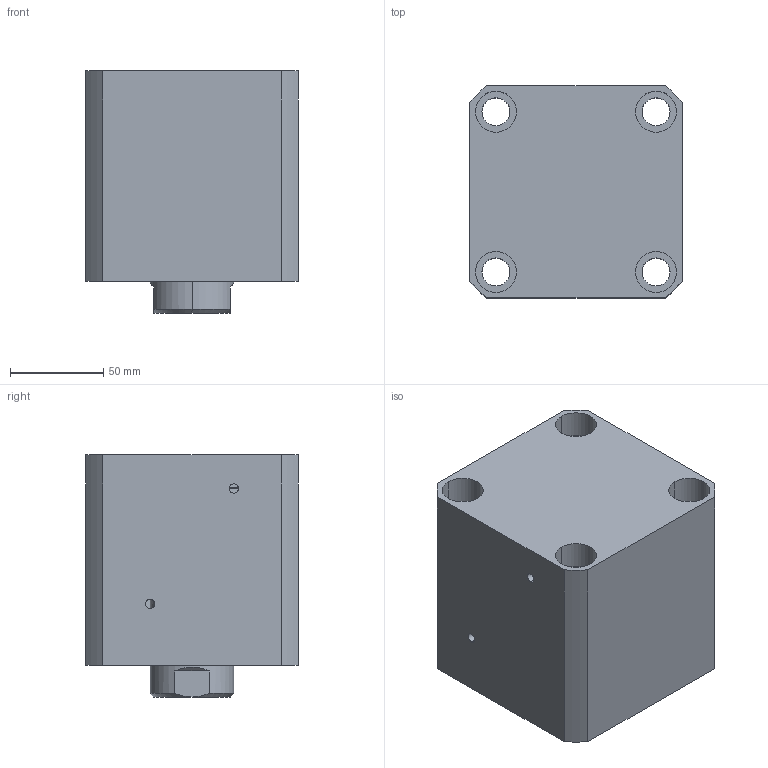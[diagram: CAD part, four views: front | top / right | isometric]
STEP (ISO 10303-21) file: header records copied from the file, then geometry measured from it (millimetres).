
FILE_DESCRIPTION (( 'STEP AP214' ), '1' );
FILE_NAME ('chtb-sdma80x35n_asm.STEP', '2018-05-29T01:55:38', ( 'Windows' ), ( 'Microsoft' ), 'SwSTEP 2.0', 'SolidWorks 2015', '' );
FILE_SCHEMA (( 'AUTOMOTIVE_DESIGN' ));
Length unit declared in the file: millimetre
Products named in the file (4): CHTB-SDMA80X35NBT; CHTB-SD80X35NHSG; CHTB-SD80QG; chtb-sdma80x35n_asm
Assembly tree (3 placements, depth 2):
  chtb-sdma80x35n_asm
    CHTB-SD80QG
    CHTB-SD80X35NHSG
    CHTB-SDMA80X35NBT
Bounding box: 114 x 114 x 130 mm (x, y, z)
Volume: 1212379.6 mm3; surface area: 186510.3 mm2
Topology: 3 solids, 3 shells, 190 faces, 516 edges, 345 vertices
Faces by surface type: cylinder 107, plane 35, torus 18, cone 16, bspline 14
Entity records: 15170 total; most frequent: CARTESIAN_POINT 10463, ORIENTED_EDGE 1020, DIRECTION 879, EDGE_CURVE 510, AXIS2_PLACEMENT_3D 368, VERTEX_POINT 345, EDGE_LOOP 227, ADVANCED_FACE 190
